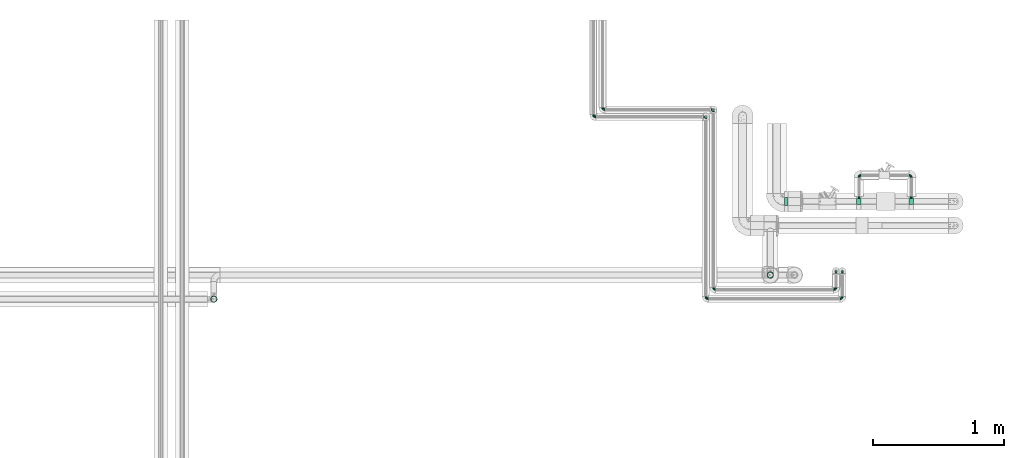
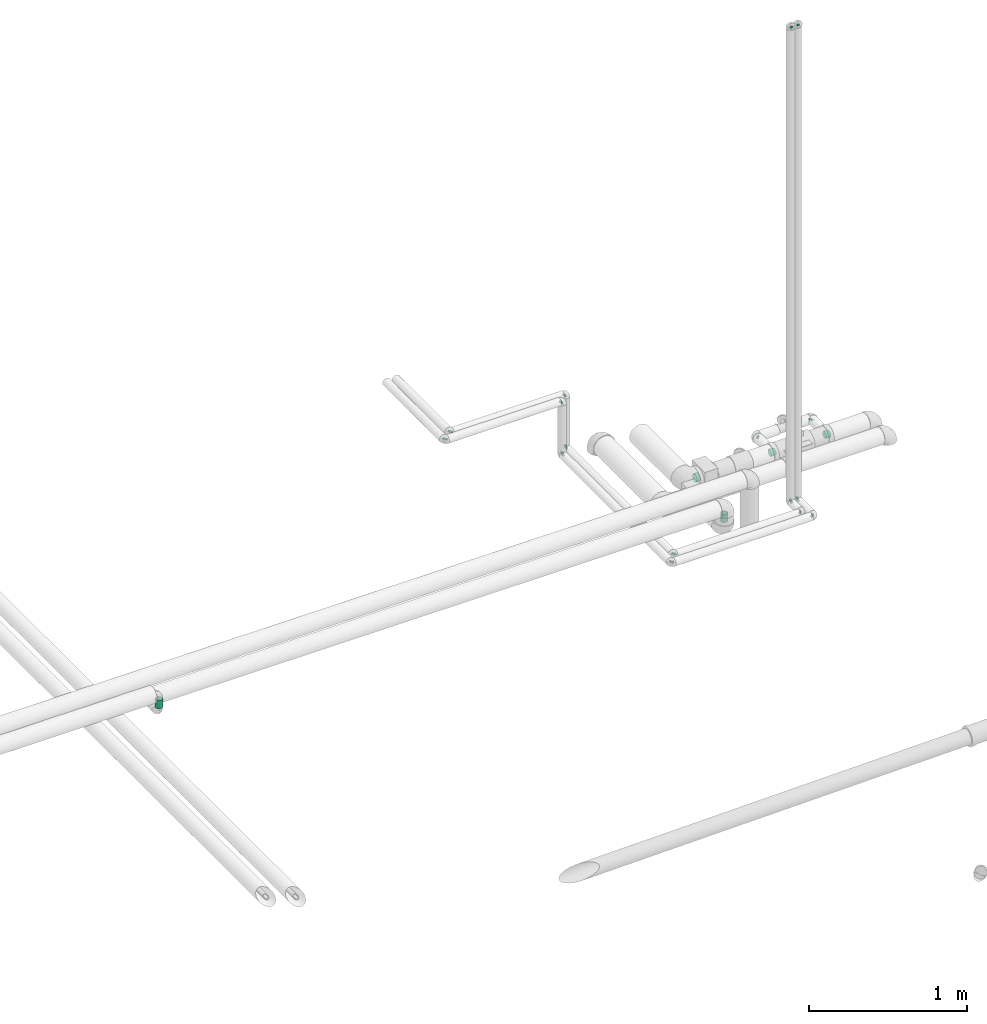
# One storey, part 49 of 83: 18 flow fittings, 3 flow segments.
"""IFC2X3 building model written with IfcOpenShell, lengths in millimetres."""

from ifc_helpers import new_model, entity, si_unit, converted_unit, derived_unit, direction, frame, origin_with_axes, origin_2d_with_axis, place, context, subcontext, project, spatial, hollow_circle, extrude, open_shell, surface_model, source, transform, mapped, type_object, element, save


model = new_model("IFC2X3")

# Units and contexts
model_context = context("Model", 3, precision=0.01, world=frame((0.0, 4.29681676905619e-09, 0.0)), true_north=direction((4.01073788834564e-13, 1.0)))
plan_context = context("Plan", 3, precision=0.01, world=frame((0.0, 4.29681676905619e-09, 0.0)), true_north=direction((4.01073788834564e-13, 1.0)))
body_context = subcontext(model_context, "Body", "Model", "MODEL_VIEW")
ifc_project = project(units=[converted_unit("PLANEANGLEUNIT", "DEGREE", entity("IfcPositiveLengthMeasure", 0.0174532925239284), si_unit("PLANEANGLEUNIT", "RADIAN"), dimensions=[0, 0, 0, 0, 0, 0, 0]), si_unit("AREAUNIT", "SQUARE_METRE"), si_unit("LENGTHUNIT", "METRE", prefix="MILLI"), si_unit("MASSUNIT", "GRAM", prefix="KILO"), si_unit("POWERUNIT", "WATT"), si_unit("PRESSUREUNIT", "PASCAL"), si_unit("FORCEUNIT", "NEWTON", prefix="KILO"), si_unit("ELECTRICVOLTAGEUNIT", "VOLT"), si_unit("ELECTRICCURRENTUNIT", "AMPERE"), si_unit("THERMODYNAMICTEMPERATUREUNIT", "DEGREE_CELSIUS"), si_unit("TIMEUNIT", "SECOND"), si_unit("VOLUMEUNIT", "CUBIC_METRE"), derived_unit("LINEARVELOCITYUNIT", [(si_unit("LENGTHUNIT", "METRE"), 1), (si_unit("TIMEUNIT", "SECOND"), -1)]), derived_unit("VOLUMETRICFLOWRATEUNIT", [(si_unit("VOLUMEUNIT", "CUBIC_METRE"), 1), (si_unit("TIMEUNIT", "SECOND"), -1)]), derived_unit("THERMALTRANSMITTANCEUNIT", [(si_unit("POWERUNIT", "WATT"), 1), (si_unit("THERMODYNAMICTEMPERATUREUNIT", "KELVIN"), -1), (si_unit("AREAUNIT", "SQUARE_METRE"), -1)]), derived_unit("SOUNDPRESSUREUNIT", [(si_unit("PRESSUREUNIT", "PASCAL"), 1)])], contexts=[model_context, plan_context])

# Site, building, storey
site_placement = place(None, frame((0.0, -4.29681676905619e-09, 0.0), z_axis=(0.0, 0.0, 1.0), x_axis=(1.0, 0.0, 0.0)))
site = spatial("IfcSite", under=ifc_project, at=site_placement, Name="ENGM", CompositionType="ELEMENT")
building_placement = place(site_placement, frame((0.0, 4.29681676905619e-09, 0.0), z_axis=(0.0, 0.0, 1.0), x_axis=(1.0, 0.0, 0.0)))
building = spatial("IfcBuilding", under=site, at=building_placement, Name="TI", CompositionType="ELEMENT")
storey_placement = place(building_placement, frame((0.0, 0.0, 204000.0), z_axis=(0.0, 0.0, 1.0), x_axis=(1.0, 0.0, 0.0)))
storey = spatial("IfcBuildingStorey", under=building, at=storey_placement, Name="Nivå D", CompositionType="ELEMENT", Elevation=204000.0)

# Flow fittings
pipe_fitting_type_1 = type_object("IfcPipeFittingType", Name="magi_pipe_fe_tee_centric_90_NOR", PredefinedType="JUNCTION")
shared_shape_1 = source(origin_with_axes(), body_context, "Body", "SurfaceModel", [
    surface_model("IfcShellBasedSurfaceModel", [(-17.2, 0.0, -24.2), (-17.2, -6.26342, -23.37541), (-17.2, 6.26342, -23.37541), (-17.2, 12.1, -20.95781), (-17.2, 17.11198, -17.11198), (-17.2, 20.95781, -12.1), (-17.2, -23.37541, -6.26342), (-17.2, 23.37541, -6.26342), (-17.2, -12.1, -20.95781), (-17.2, -17.11198, -17.11198), (-17.2, -20.95781, -12.1), (-17.2, -24.2, 0.0), (-17.2, -23.37541, 6.26342), (-17.2, 20.95781, 12.1), (-17.2, 23.37541, 6.26342), (-17.2, 24.2, 0.0), (-17.2, 12.1, 20.95781), (-17.2, 17.11198, 17.11198), (-17.2, -17.11198, 17.11198), (-17.2, 6.26342, 23.37541), (-17.2, -20.95781, 12.1), (-17.2, -12.1, 20.95781), (-17.2, -6.26342, 23.37541), (-17.2, 0.0, 24.2), (17.2, 6.26342, -23.37541), (17.2, -6.26342, -23.37541), (17.2, 0.0, -24.2), (17.2, 20.95781, -12.1), (17.2, 12.1, -20.95781), (17.2, -24.2, 0.0), (17.2, 17.11198, -17.11198), (17.2, -23.37541, 6.26342), (17.2, -17.11198, -17.11198), (17.2, -12.1, -20.95781), (17.2, -23.37541, -6.26342), (17.2, -20.95781, -12.1), (17.2, 23.37541, -6.26342), (17.2, 24.2, 0.0), (17.2, 23.37541, 6.26342), (17.2, 20.95781, 12.1), (17.2, 12.1, 20.95781), (17.2, 17.11198, 17.11198), (17.2, 6.26342, 23.37541), (17.2, -17.11198, 17.11198), (17.2, -20.95781, 12.1), (17.2, -6.26342, 23.37541), (17.2, -12.1, 20.95781), (17.2, 0.0, 24.2), (8.6, -24.2, 0.0), (8.07512, -24.01848, 2.95846), (6.58219, -23.55855, 5.53486), (17.2, -23.7877, 3.13171), (4.3131, -23.02787, 7.44024), (1.50318, -22.67023, 8.46761), (-8.07534, -24.01856, 2.95784), (-17.2, -23.7877, 3.13171), (-8.6, -24.2, 0.0), (-6.58454, -23.55921, 5.53207), (-4.31381, -23.028, 7.43983), (-1.50548, -22.67039, 8.4672), (-8.07534, -24.01856, -2.95784), (-17.2, -23.7877, -3.13171), (4.3131, -23.02787, -7.44024), (1.50318, -22.67023, -8.46761), (17.2, -23.7877, -3.13171), (8.07512, -24.01848, -2.95846), (6.58219, -23.55855, -5.53486), (-1.50548, -22.67039, -8.4672), (-4.31381, -23.028, -7.43983), (-6.58454, -23.55921, -5.53207), (0.0, -36.3, -8.6), (2.22584, -36.3, -8.30696), (4.3, -36.3, -7.44782), (6.08112, -36.3, -6.08112), (7.44782, -36.3, -4.3), (8.30696, -36.3, -2.22584), (-6.08112, -36.3, -6.08112), (-8.30696, -36.3, 2.22584), (-2.22584, -36.3, -8.30696), (-4.3, -36.3, -7.44782), (-8.30696, -36.3, -2.22584), (-7.44782, -36.3, -4.3), (-8.6, -36.3, 0.0), (8.30696, -36.3, 2.22584), (2.22584, -36.3, 8.30696), (7.44782, -36.3, 4.3), (4.3, -36.3, 7.44782), (6.08112, -36.3, 6.08112), (0.0, -36.3, 8.6), (-6.08112, -36.3, 6.08112), (-7.44782, -36.3, 4.3), (-4.3, -36.3, 7.44782), (-2.22584, -36.3, 8.30696), (8.6, -36.3, 0.0)], [open_shell([[[0, 1, 2]], [[3, 2, 4]], [[5, 2, 6]], [[4, 2, 5]], [[7, 5, 6]], [[8, 9, 1]], [[10, 1, 9]], [[1, 10, 2]], [[10, 6, 2]], [[6, 11, 7]], [[11, 12, 7]], [[13, 14, 15]], [[13, 15, 12]], [[16, 17, 18]], [[12, 17, 13]], [[19, 16, 18]], [[20, 18, 12]], [[18, 17, 12]], [[21, 22, 18]], [[23, 18, 22]], [[18, 23, 19]], [[7, 12, 15]], [[24, 25, 26]], [[27, 24, 28]], [[29, 24, 27]], [[27, 28, 30]], [[31, 29, 27]], [[25, 32, 33]], [[32, 25, 34]], [[32, 34, 35]], [[34, 25, 29]], [[25, 24, 29]], [[27, 36, 37]], [[37, 38, 39]], [[31, 37, 39]], [[31, 39, 40]], [[40, 39, 41]], [[31, 40, 42]], [[31, 43, 44]], [[31, 42, 43]], [[43, 45, 46]], [[45, 43, 47]], [[42, 47, 43]], [[37, 31, 27]], [[48, 29, 49]], [[50, 49, 51]], [[51, 31, 50]], [[31, 44, 52]], [[44, 53, 52]], [[20, 53, 44]], [[20, 44, 43]], [[31, 52, 50]], [[11, 54, 55]], [[11, 56, 54]], [[57, 12, 55]], [[58, 59, 20]], [[58, 20, 12]], [[59, 53, 20]], [[43, 18, 20]], [[58, 12, 57]], [[43, 21, 18]], [[45, 47, 23]], [[22, 46, 45]], [[49, 29, 51]], [[42, 19, 47]], [[39, 38, 14]], [[17, 40, 41]], [[13, 41, 39]], [[42, 40, 16]], [[15, 38, 37]], [[57, 55, 54]], [[21, 46, 22]], [[22, 45, 23]], [[19, 23, 47]], [[42, 16, 19]], [[16, 40, 17]], [[13, 17, 41]], [[14, 13, 39]], [[38, 15, 14]], [[46, 21, 43]], [[15, 37, 36]], [[5, 27, 30]], [[7, 36, 27]], [[26, 25, 1]], [[2, 28, 24]], [[0, 24, 26]], [[28, 3, 30]], [[33, 8, 25]], [[5, 30, 4]], [[15, 36, 7]], [[7, 27, 5]], [[30, 3, 4]], [[3, 28, 2]], [[0, 2, 24]], [[1, 0, 26]], [[25, 8, 1]], [[33, 9, 8]], [[10, 32, 35]], [[60, 11, 61]], [[62, 63, 35]], [[35, 34, 62]], [[10, 35, 63]], [[64, 29, 65]], [[66, 34, 64]], [[48, 65, 29]], [[34, 66, 62]], [[67, 68, 10]], [[66, 64, 65]], [[9, 32, 10]], [[68, 6, 10]], [[10, 63, 67]], [[60, 61, 69]], [[61, 6, 69]], [[11, 60, 56]], [[69, 6, 68]], [[32, 9, 33]], [[70, 71, 72]], [[70, 72, 73]], [[73, 74, 75]], [[73, 75, 70]], [[76, 70, 77]], [[78, 76, 79]], [[78, 70, 76]], [[76, 80, 81]], [[80, 76, 82]], [[76, 77, 82]], [[77, 70, 75]], [[75, 83, 84]], [[84, 83, 85]], [[86, 84, 85]], [[86, 85, 87]], [[75, 84, 88]], [[77, 89, 90]], [[75, 89, 77]], [[91, 88, 92]], [[89, 75, 91]], [[91, 75, 88]], [[83, 75, 93]], [[56, 82, 77]], [[54, 90, 89]], [[77, 90, 54]], [[89, 91, 54]], [[56, 77, 54]], [[54, 91, 57]], [[59, 58, 52]], [[92, 58, 57]], [[88, 58, 92]], [[92, 57, 91]], [[84, 52, 88]], [[86, 50, 84]], [[49, 87, 85]], [[86, 87, 49]], [[49, 85, 83]], [[84, 50, 52]], [[53, 59, 52]], [[83, 48, 49]], [[49, 50, 86]], [[83, 93, 48]], [[52, 58, 88]], [[48, 93, 75]], [[65, 74, 73]], [[75, 74, 65]], [[65, 73, 72]], [[48, 75, 65]], [[65, 72, 66]], [[63, 62, 67]], [[71, 62, 66]], [[70, 62, 71]], [[71, 66, 72]], [[68, 70, 78]], [[79, 69, 78]], [[60, 76, 81]], [[79, 76, 60]], [[60, 81, 80]], [[78, 69, 68]], [[67, 62, 68]], [[80, 56, 60]], [[60, 69, 79]], [[80, 82, 56]], [[68, 62, 70]]])]),
])
for number, where, z_axis, x_axis, name in (
    (1, (609644.07456, 698092.0, 5915.24411), (0.0, 0.0, -1.0), (1.0, 0.0, 0.0), "magi_pipe_fe_tee_centric_90_NOR"),
    (2, (609244.07456, 698092.0, 5915.24411), (0.0, 0.0, -1.0), (1.0, 0.0, 0.0), "magi_pipe_fe_tee_centric_90_NOR"),
):
    element("IfcFlowFitting", number, at=place(storey_placement, frame(where, z_axis=z_axis, x_axis=x_axis)), inside=storey, type_object=pipe_fitting_type_1, Name=name, context=body_context, shape_type="MappedRepresentation", body=[
        mapped(shared_shape_1, transform((0.0, 0.0, 0.0), scale=1.0)),
    ])
pipe_fitting_type_2 = type_object("IfcPipeFittingType", Name="magi_pipe_fe_elbow_short_001", PredefinedType="BEND")
shared_shape_2 = source(origin_with_axes(), body_context, "Body", "SurfaceModel", [
    surface_model("IfcShellBasedSurfaceModel", [(-17.2, 4.3, -7.44782), (-17.2, 2.22584, -8.30696), (-17.2, 0.0, -8.6), (-17.2, 6.08112, -6.08112), (-17.2, 8.30696, -2.22584), (-17.2, 7.44782, -4.3), (-17.2, -2.22584, -8.30696), (-17.2, -8.30696, 2.22584), (-17.2, -4.3, -7.44782), (-17.2, -6.08112, -6.08112), (-17.2, -8.30696, -2.22584), (-17.2, -7.44782, -4.3), (-17.2, -8.6, 0.0), (-17.2, 7.44782, 4.3), (-17.2, 8.30696, 2.22584), (-17.2, 2.22584, 8.30696), (-17.2, 4.3, 7.44782), (-17.2, 6.08112, 6.08112), (-17.2, -6.08112, 6.08112), (-17.2, -4.3, 7.44782), (-17.2, -7.44782, 4.3), (-17.2, -2.22584, 8.30696), (-17.2, 0.0, 8.6), (-17.2, 8.6, 0.0), (0.0, 17.2, -8.6), (-2.22584, 17.2, -8.30696), (-4.3, 17.2, -7.44782), (-6.08112, 17.2, -6.08112), (-7.44782, 17.2, -4.3), (-8.30696, 17.2, -2.22584), (2.22584, 17.2, -8.30696), (8.30696, 17.2, 2.22584), (6.08112, 17.2, -6.08112), (4.3, 17.2, -7.44782), (8.30696, 17.2, -2.22584), (7.44782, 17.2, -4.3), (8.6, 17.2, 0.0), (-8.30696, 17.2, 2.22584), (-7.44782, 17.2, 4.3), (-6.08112, 17.2, 6.08112), (-4.3, 17.2, 7.44782), (-2.22584, 17.2, 8.30696), (7.44782, 17.2, 4.3), (4.3, 17.2, 7.44782), (6.08112, 17.2, 6.08112), (2.22584, 17.2, 8.30696), (0.0, 17.2, 8.6), (-8.6, 17.2, 0.0), (-15.37502, -8.111, 0.0), (-10.04354, -2.84038, 7.57066), (-9.90009, -6.644, 0.0), (-4.3, -5.14346, 0.0), (0.42173, -0.42173, 0.0), (2.78259, 1.93914, 0.0), (-2.58202, 1.13316, 7.31539), (-1.93914, -2.78259, 0.0), (-13.55005, -7.622, 0.0), (-6.80019, 6.80019, 8.2309), (-4.72022, 9.20401, 8.26458), (2.84038, 10.04354, 7.57066), (1.9234, 5.58894, 6.87073), (5.14346, 4.3, 0.0), (-5.48122, -1.98681, 6.78639), (8.111, 15.37502, 0.0), (7.622, 13.55005, 0.0), (-9.20401, 4.72022, 8.26458), (-9.85944, 14.15944, 0.0), (-14.15944, 9.85944, 0.0), (-11.11888, 11.11888, 0.0), (6.644, 9.90009, 0.0), (-10.04354, -2.84038, -7.57066), (-4.72022, 9.20401, -8.26458), (0.82034, 3.94148, -6.87073), (-2.56846, 2.04524, -7.68239), (2.84038, 10.04354, -7.57066), (-13.0629, 6.9721, -5.99393), (-8.12561, 2.09063, -8.5895), (-9.3972, 7.75155, -7.03531)], [open_shell([[[0, 1, 2]], [[3, 0, 2]], [[4, 5, 3]], [[6, 3, 2]], [[6, 7, 3]], [[8, 9, 6]], [[7, 9, 10]], [[11, 10, 9]], [[6, 9, 7]], [[12, 7, 10]], [[4, 3, 7]], [[4, 13, 14]], [[7, 13, 4]], [[15, 16, 17]], [[7, 17, 13]], [[17, 7, 15]], [[18, 19, 20]], [[7, 20, 21]], [[19, 21, 20]], [[21, 15, 7]], [[21, 22, 15]], [[14, 23, 4]], [[24, 25, 26]], [[24, 26, 27]], [[27, 28, 29]], [[24, 27, 30]], [[27, 31, 30]], [[30, 32, 33]], [[34, 32, 31]], [[32, 34, 35]], [[31, 32, 30]], [[34, 31, 36]], [[31, 27, 29]], [[37, 38, 29]], [[29, 38, 31]], [[39, 40, 41]], [[38, 39, 31]], [[41, 31, 39]], [[42, 43, 44]], [[45, 42, 31]], [[42, 45, 43]], [[31, 41, 45]], [[41, 46, 45]], [[29, 47, 37]], [[7, 48, 20]], [[49, 50, 51]], [[52, 53, 54]], [[54, 55, 52]], [[19, 18, 56]], [[20, 56, 18]], [[57, 54, 58]], [[19, 50, 21]], [[22, 21, 50]], [[59, 60, 61]], [[59, 58, 60]], [[55, 54, 62]], [[22, 50, 49]], [[22, 49, 15]], [[62, 49, 51]], [[62, 51, 55]], [[42, 63, 31]], [[49, 16, 15]], [[64, 63, 42]], [[14, 65, 23]], [[13, 17, 49]], [[54, 65, 62]], [[16, 49, 17]], [[57, 58, 66]], [[67, 57, 68]], [[53, 60, 54]], [[45, 46, 69]], [[69, 43, 45]], [[39, 59, 40]], [[41, 59, 46]], [[44, 43, 64]], [[54, 60, 58]], [[64, 43, 69]], [[61, 60, 53]], [[31, 63, 36]], [[59, 61, 69]], [[58, 47, 66]], [[19, 56, 50]], [[54, 57, 65]], [[49, 65, 13]], [[37, 47, 58]], [[64, 42, 44]], [[38, 37, 58]], [[13, 65, 14]], [[39, 38, 59]], [[7, 12, 48]], [[38, 58, 59]], [[48, 56, 20]], [[40, 59, 41]], [[59, 69, 46]], [[49, 62, 65]], [[57, 67, 65]], [[66, 68, 57]], [[67, 23, 65]], [[70, 50, 2]], [[71, 72, 73]], [[74, 71, 28]], [[70, 1, 0]], [[70, 51, 50]], [[34, 36, 63]], [[75, 3, 5]], [[75, 4, 23]], [[5, 4, 75]], [[51, 76, 55]], [[75, 23, 67]], [[70, 3, 75]], [[48, 12, 10]], [[8, 56, 9]], [[2, 50, 6]], [[51, 70, 76]], [[56, 8, 50]], [[8, 6, 50]], [[70, 2, 1]], [[74, 72, 71]], [[52, 72, 53]], [[3, 70, 0]], [[70, 75, 76]], [[73, 52, 55]], [[29, 71, 47]], [[61, 53, 72]], [[33, 64, 69]], [[71, 77, 68]], [[27, 74, 28]], [[56, 11, 9]], [[26, 25, 74]], [[63, 64, 35]], [[56, 48, 11]], [[26, 74, 27]], [[11, 48, 10]], [[24, 74, 25]], [[30, 69, 24]], [[28, 71, 29]], [[32, 64, 33]], [[69, 30, 33]], [[71, 68, 66]], [[74, 24, 69]], [[35, 34, 63]], [[61, 72, 74]], [[61, 74, 69]], [[67, 77, 75]], [[66, 47, 71]], [[35, 64, 32]], [[76, 77, 73]], [[75, 77, 76]], [[77, 71, 73]], [[55, 76, 73]], [[72, 52, 73]], [[77, 67, 68]]])]),
])
for number, where, z_axis, x_axis, name in (
    (3, (609644.07456, 698292.0, 5915.20000000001), (0.0, 0.0, 1.0), (0.0, 1.0, 0.0), "magi_pipe_fe_elbow_short_001"),
    (4, (609244.07456, 698292.0, 5915.20000000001), (0.0, 0.0, 1.0), (-1.0, 0.0, 0.0), "magi_pipe_fe_elbow_short_001"),
):
    element("IfcFlowFitting", number, at=place(storey_placement, frame(where, z_axis=z_axis, x_axis=x_axis)), inside=storey, type_object=pipe_fitting_type_2, Name=name, context=body_context, shape_type="MappedRepresentation", body=[
        mapped(shared_shape_2, transform((0.0, 0.0, 0.0), scale=1.0)),
    ])
pipe_fitting_type_3 = type_object("IfcPipeFittingType", Name="magi_pipe_cu_elbow_short_001", PredefinedType="BEND")
shared_shape_3 = source(origin_with_axes(), body_context, "Body", "SurfaceModel", [
    surface_model("IfcShellBasedSurfaceModel", [(-18.0, 4.5, -7.79423), (-18.0, 2.32937, -8.69333), (-18.0, 0.0, -9.0), (-18.0, -6.36396, -6.36396), (-18.0, 8.69333, -2.32937), (-18.0, 7.79423, -4.5), (-18.0, 6.36396, -6.36396), (-18.0, -4.5, -7.79423), (-18.0, -2.32937, -8.69333), (-18.0, -7.79423, -4.5), (-18.0, -8.69333, -2.32937), (-18.0, -9.0, 0.0), (-18.0, 8.69333, 2.32937), (-18.0, -7.79423, 4.5), (-18.0, 7.79423, 4.5), (-18.0, 6.36396, 6.36396), (-18.0, 2.32937, 8.69333), (-18.0, 4.5, 7.79423), (-18.0, 0.0, 9.0), (-18.0, -6.36396, 6.36396), (-18.0, -2.32937, 8.69333), (-18.0, -8.69333, 2.32937), (-18.0, -4.5, 7.79423), (-18.0, 9.0, 0.0), (0.0, 18.0, -9.0), (-2.32937, 18.0, -8.69333), (-4.5, 18.0, -7.79423), (6.36396, 18.0, -6.36396), (-6.36396, 18.0, -6.36396), (-7.79423, 18.0, -4.5), (-8.69333, 18.0, -2.32937), (9.0, 18.0, 0.0), (2.32937, 18.0, -8.69333), (4.5, 18.0, -7.79423), (8.69333, 18.0, -2.32937), (7.79423, 18.0, -4.5), (-8.69333, 18.0, 2.32937), (7.79423, 18.0, 4.5), (-6.36396, 18.0, 6.36396), (-7.79423, 18.0, 4.5), (-4.5, 18.0, 7.79423), (-2.32937, 18.0, 8.69333), (0.0, 18.0, 9.0), (2.32937, 18.0, 8.69333), (6.36396, 18.0, 6.36396), (8.69333, 18.0, 2.32937), (4.5, 18.0, 7.79423), (-9.0, 18.0, 0.0), (-16.09014, -8.48825, 0.0), (-10.51068, -2.97249, 7.92278), (-10.36056, -6.95302, 0.0), (-4.5, -5.38269, 0.0), (0.44134, -0.44134, 0.0), (2.91201, 2.02933, 0.0), (-2.70211, 1.18586, 7.65564), (-2.02933, -2.91201, 0.0), (-14.18028, -7.97651, 0.0), (-7.11648, 7.11648, 8.61373), (-4.93977, 9.63211, 8.64898), (2.97249, 10.51068, 7.92278), (2.01286, 5.84889, 7.1903), (5.38269, 4.5, 0.0), (-5.73616, -2.07922, 7.10204), (8.48825, 16.09014, 0.0), (7.97651, 14.18028, 0.0), (-9.63211, 4.93977, 8.64898), (-10.31802, 14.81802, 0.0), (-14.81802, 10.31802, 0.0), (-11.63604, 11.63604, 0.0), (6.95302, 10.36056, 0.0), (-10.51068, -2.97249, -7.92278), (-4.93977, 9.63211, -8.64898), (0.8585, 4.1248, -7.1903), (-2.68792, 2.14037, -8.03971), (2.97249, 10.51068, -7.92278), (-13.67048, 7.29638, -6.27272), (-8.50355, 2.18787, -8.98901), (-9.83427, 8.11209, -7.36254)], [open_shell([[[0, 1, 2]], [[0, 2, 3]], [[4, 5, 6]], [[0, 4, 6]], [[4, 0, 3]], [[7, 3, 8]], [[3, 2, 8]], [[9, 10, 3]], [[11, 3, 10]], [[3, 11, 4]], [[11, 12, 4]], [[13, 12, 11]], [[14, 12, 15]], [[16, 17, 15]], [[15, 12, 18]], [[16, 15, 18]], [[19, 20, 13]], [[13, 11, 21]], [[22, 20, 19]], [[18, 13, 20]], [[13, 18, 12]], [[23, 4, 12]], [[24, 25, 26]], [[27, 24, 26]], [[28, 29, 30]], [[28, 30, 26]], [[31, 26, 30]], [[32, 27, 33]], [[32, 24, 27]], [[27, 34, 35]], [[34, 27, 31]], [[26, 31, 27]], [[30, 36, 31]], [[31, 36, 37]], [[38, 36, 39]], [[38, 40, 41]], [[42, 36, 38]], [[42, 38, 41]], [[37, 43, 44]], [[45, 31, 37]], [[44, 43, 46]], [[43, 37, 42]], [[36, 42, 37]], [[36, 30, 47]], [[21, 48, 13]], [[49, 50, 51]], [[52, 53, 54]], [[54, 55, 52]], [[22, 19, 56]], [[13, 56, 19]], [[57, 54, 58]], [[22, 50, 20]], [[18, 20, 50]], [[59, 60, 61]], [[59, 58, 60]], [[55, 54, 62]], [[18, 50, 49]], [[18, 49, 16]], [[62, 49, 51]], [[62, 51, 55]], [[37, 63, 45]], [[49, 17, 16]], [[64, 63, 37]], [[12, 65, 23]], [[14, 15, 49]], [[54, 65, 62]], [[17, 49, 15]], [[58, 47, 66]], [[67, 57, 68]], [[53, 60, 54]], [[43, 42, 69]], [[69, 46, 43]], [[38, 59, 40]], [[41, 59, 42]], [[44, 46, 64]], [[68, 57, 66]], [[64, 46, 69]], [[61, 60, 53]], [[45, 63, 31]], [[59, 61, 69]], [[47, 58, 36]], [[22, 56, 50]], [[54, 57, 65]], [[49, 65, 14]], [[66, 57, 58]], [[64, 37, 44]], [[39, 36, 58]], [[14, 65, 12]], [[38, 39, 59]], [[21, 11, 48]], [[39, 58, 59]], [[48, 56, 13]], [[40, 59, 41]], [[59, 69, 42]], [[49, 62, 65]], [[57, 67, 65]], [[54, 60, 58]], [[67, 23, 65]], [[70, 50, 2]], [[71, 72, 73]], [[74, 71, 29]], [[70, 1, 0]], [[70, 51, 50]], [[34, 31, 63]], [[75, 6, 5]], [[75, 4, 23]], [[5, 4, 75]], [[51, 76, 55]], [[75, 23, 67]], [[70, 6, 75]], [[48, 11, 10]], [[7, 56, 3]], [[2, 50, 8]], [[51, 70, 76]], [[56, 7, 50]], [[7, 8, 50]], [[70, 2, 1]], [[66, 47, 71]], [[52, 72, 53]], [[6, 70, 0]], [[70, 75, 76]], [[73, 52, 55]], [[71, 68, 66]], [[61, 53, 72]], [[33, 64, 69]], [[30, 71, 47]], [[28, 74, 29]], [[56, 9, 3]], [[26, 25, 74]], [[63, 64, 35]], [[56, 48, 9]], [[26, 74, 28]], [[9, 48, 10]], [[24, 74, 25]], [[32, 69, 24]], [[29, 71, 30]], [[27, 64, 33]], [[69, 32, 33]], [[68, 71, 77]], [[74, 24, 69]], [[35, 34, 63]], [[61, 72, 74]], [[61, 74, 69]], [[67, 77, 75]], [[74, 72, 71]], [[35, 64, 27]], [[76, 77, 73]], [[75, 77, 76]], [[77, 71, 73]], [[55, 76, 73]], [[72, 52, 73]], [[77, 67, 68]]])]),
])
for number, where, z_axis, x_axis, name in (
    (5, (609117.81817, 697349.51267, 5920.0), (0.0, 0.0, 1.0), (1.0, 0.0, 0.0), "magi_pipe_cu_elbow_short_001"),
    (6, (609117.81817, 697559.51267, 5920.0), (1.0, 0.0, 0.0), (0.0, 1.0, 0.0), "magi_pipe_cu_elbow_short_001"),
    (7, (609117.81817, 697559.51267, 9600.0), (1.0, 0.0, 0.0), (0.0, 0.0, 1.0), "magi_pipe_cu_elbow_short_001"),
    (8, (609069.65402, 697419.51267, 5920.0), (0.0, 0.0, 1.0), (1.0, 0.0, 0.0), "magi_pipe_cu_elbow_short_001"),
    (9, (609069.65402, 697559.51267, 5920.0), (1.0, 0.0, 0.0), (0.0, 1.0, 0.0), "magi_pipe_cu_elbow_short_001"),
    (10, (609069.65402, 697559.51267, 9600.0), (1.0, 0.0, 0.0), (0.0, 0.0, 1.0), "magi_pipe_cu_elbow_short_001"),
    (11, (607289.38671, 698791.7695, 6330.0), (0.0, 0.0, 1.0), (0.0, -1.0, 0.0), "magi_pipe_cu_elbow_short_001"),
    (12, (608134.38671, 698791.7695, 6330.0), (0.0, 1.0, 0.0), (1.0, 0.0, 0.0), "magi_pipe_cu_elbow_short_001"),
    (13, (607219.88671, 698736.7695, 6330.0), (0.0, 0.0, 1.0), (0.0, -1.0, 0.0), "magi_pipe_cu_elbow_short_001"),
    (14, (608077.81817, 698736.7695, 6330.0), (0.0, 1.0, 0.0), (1.0, 0.0, 0.0), "magi_pipe_cu_elbow_short_001"),
    (15, (608134.38671, 697419.51267, 5920.0), (0.0, 0.0, 1.0), (0.0, -1.0, 0.0), "magi_pipe_cu_elbow_short_001"),
    (16, (608134.38671, 698791.7695, 5920.0), (-1.0, 0.0, 0.0), (0.0, 0.0, -1.0), "magi_pipe_cu_elbow_short_001"),
    (17, (608077.81817, 697349.51267, 5920.0), (0.0, 0.0, 1.0), (0.0, -1.0, 0.0), "magi_pipe_cu_elbow_short_001"),
    (18, (608077.81817, 698736.7695, 5920.0), (-1.0, 0.0, 0.0), (0.0, 0.0, -1.0), "magi_pipe_cu_elbow_short_001"),
):
    element("IfcFlowFitting", number, at=place(storey_placement, frame(where, z_axis=z_axis, x_axis=x_axis)), inside=storey, type_object=pipe_fitting_type_3, Name=name, context=body_context, shape_type="MappedRepresentation", body=[
        mapped(shared_shape_3, transform((0.0, 0.0, 0.0), scale=1.0)),
    ])

# Flow segments
pipe_segment_type = type_object("IfcPipeSegmentType", Name="Stålrør normaltykke", PredefinedType="RIGIDSEGMENT")
shared_shape_4 = source(origin_with_axes(), body_context, "Body", "SweptSolid", [
    extrude(hollow_circle(Radius=30.1, WallThickness=2.0, at=origin_2d_with_axis()), frame((0.0, 0.0, 0.0), z_axis=(1.0, 0.0, 0.0), x_axis=(0.0, 1.0, 0.0)), (0.0, 0.0, 1.0), 26.6),
])
flow_segment_1_placement = place(storey_placement, frame((608704.37351, 698092.0, 5915.24411), z_axis=(0.0, 0.0, 1.0), x_axis=(-1.0, 0.0, 0.0)))
element("IfcFlowSegment", 19, at=flow_segment_1_placement, inside=storey, type_object=pipe_segment_type, Name="Stålrør normaltykke", context=body_context, shape_type="MappedRepresentation", body=[
    mapped(shared_shape_4, transform((0.0, 0.0, 0.0), scale=1.0)),
])
shared_shape_5 = source(origin_with_axes(), body_context, "Body", "SweptSolid", [
    extrude(hollow_circle(Radius=24.1, WallThickness=2.0, at=origin_2d_with_axis()), frame((0.0, 0.0, 0.0), z_axis=(1.0, 0.0, 0.0), x_axis=(0.0, 1.0, 0.0)), (0.0, 0.0, 1.0), 60.0),
])
flow_segment_2_placement = place(storey_placement, frame((608568.77351, 697531.0, 5963.64410999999), z_axis=(1.0, 0.0, 0.0), x_axis=(0.0, 0.0, 1.0)))
element("IfcFlowSegment", 20, at=flow_segment_2_placement, inside=storey, type_object=pipe_segment_type, Name="Stålrør normaltykke", context=body_context, shape_type="MappedRepresentation", body=[
    mapped(shared_shape_5, transform((0.0, 0.0, 0.0), scale=1.0)),
])
shared_shape_6 = source(origin_with_axes(), body_context, "Body", "SweptSolid", [
    extrude(hollow_circle(Radius=24.1, WallThickness=2.0, at=origin_2d_with_axis()), frame((0.0, 0.0, 0.0), z_axis=(1.0, 0.0, 0.0), x_axis=(0.0, 1.0, 0.0)), (0.0, 0.0, 1.0), 64.2),
])
flow_segment_3_placement = place(storey_placement, frame((604326.13283, 697347.0, 6120.48639000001), z_axis=(1.0, 0.0, 0.0), x_axis=(0.0, 0.0, 1.0)))
element("IfcFlowSegment", 21, at=flow_segment_3_placement, inside=storey, type_object=pipe_segment_type, Name="Stålrør normaltykke", context=body_context, shape_type="MappedRepresentation", body=[
    mapped(shared_shape_6, transform((0.0, 0.0, 0.0), scale=1.0)),
])

save(model, "model.ifc")
